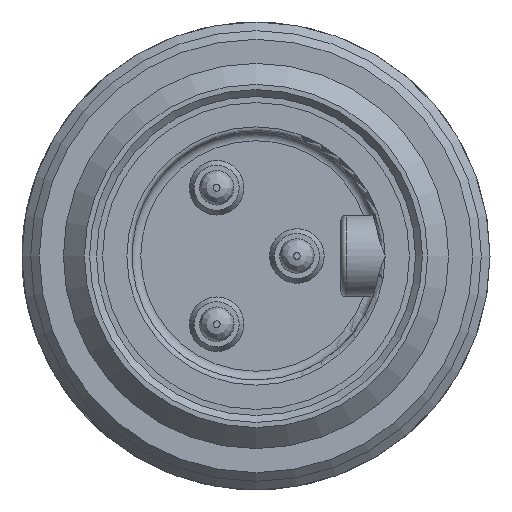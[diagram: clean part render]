
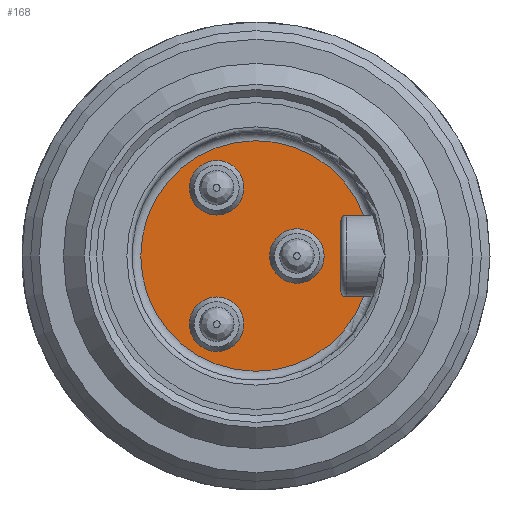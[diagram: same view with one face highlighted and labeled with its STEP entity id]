
A CAD part, front view. The second image highlights one B-rep face of the part: STEP entity #168.
In plain terms, the highlighted planar face has unit normal (0, -1, 0).
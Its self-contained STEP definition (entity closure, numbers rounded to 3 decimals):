
#168 = ADVANCED_FACE( '', ( #463, #464, #465, #466 ), #467, .F. );
#463 = FACE_OUTER_BOUND( '', #929, .T. );
#464 = FACE_BOUND( '', #930, .T. );
#465 = FACE_BOUND( '', #931, .T. );
#466 = FACE_BOUND( '', #932, .T. );
#467 = PLANE( '', #933 );
#929 = EDGE_LOOP( '', ( #1511, #1512, #1513, #1514, #1515, #1516 ) );
#930 = EDGE_LOOP( '', ( #1517 ) );
#931 = EDGE_LOOP( '', ( #1518 ) );
#932 = EDGE_LOOP( '', ( #1519 ) );
#933 = AXIS2_PLACEMENT_3D( '', #1520, #1521, #1522 );
#1511 = ORIENTED_EDGE( '', *, *, #2629, .T. );
#1512 = ORIENTED_EDGE( '', *, *, #2630, .F. );
#1513 = ORIENTED_EDGE( '', *, *, #2631, .T. );
#1514 = ORIENTED_EDGE( '', *, *, #2632, .F. );
#1515 = ORIENTED_EDGE( '', *, *, #2633, .T. );
#1516 = ORIENTED_EDGE( '', *, *, #2634, .F. );
#1517 = ORIENTED_EDGE( '', *, *, #2635, .F. );
#1518 = ORIENTED_EDGE( '', *, *, #2636, .F. );
#1519 = ORIENTED_EDGE( '', *, *, #2637, .F. );
#1520 = CARTESIAN_POINT( '', ( 30.425, 1064.655, 0. ) );
#1521 = DIRECTION( '', ( 0., 1., 0. ) );
#1522 = DIRECTION( '', ( 0., 0., -1. ) );
#2629 = EDGE_CURVE( '', #3045, #3046, #3047, .T. );
#2630 = EDGE_CURVE( '', #3048, #3046, #3049, .T. );
#2631 = EDGE_CURVE( '', #3048, #3050, #3051, .T. );
#2632 = EDGE_CURVE( '', #3052, #3050, #3053, .T. );
#2633 = EDGE_CURVE( '', #3052, #3054, #3055, .T. );
#2634 = EDGE_CURVE( '', #3045, #3054, #3056, .T. );
#2635 = EDGE_CURVE( '', #3057, #3057, #3058, .T. );
#2636 = EDGE_CURVE( '', #3059, #3059, #3060, .T. );
#2637 = EDGE_CURVE( '', #3061, #3061, #3062, .T. );
#3045 = VERTEX_POINT( '', #3638 );
#3046 = VERTEX_POINT( '', #3639 );
#3047 = LINE( '', #3640, #3641 );
#3048 = VERTEX_POINT( '', #3642 );
#3049 = CIRCLE( '', #3643, 0.3 );
#3050 = VERTEX_POINT( '', #3644 );
#3051 = LINE( '', #3645, #3646 );
#3052 = VERTEX_POINT( '', #3647 );
#3053 = CIRCLE( '', #3648, 0.3 );
#3054 = VERTEX_POINT( '', #3649 );
#3055 = LINE( '', #3650, #3651 );
#3056 = CIRCLE( '', #3652, 6.65 );
#3057 = VERTEX_POINT( '', #3653 );
#3058 = CIRCLE( '', #3654, 1.575 );
#3059 = VERTEX_POINT( '', #3655 );
#3060 = CIRCLE( '', #3656, 1.575 );
#3061 = VERTEX_POINT( '', #3657 );
#3062 = CIRCLE( '', #3658, 1.575 );
#3638 = CARTESIAN_POINT( '', ( 40.221, 1064.655, -2.35 ) );
#3639 = CARTESIAN_POINT( '', ( 39.2, 1064.655, -2.35 ) );
#3640 = CARTESIAN_POINT( '', ( 34., 1064.655, -2.35 ) );
#3641 = VECTOR( '', #5390, 1000. );
#3642 = CARTESIAN_POINT( '', ( 38.9, 1064.655, -2.05 ) );
#3643 = AXIS2_PLACEMENT_3D( '', #5391, #5392, #5393 );
#3644 = CARTESIAN_POINT( '', ( 38.9, 1064.655, 2.05 ) );
#3645 = CARTESIAN_POINT( '', ( 38.9, 1064.655, 98.927 ) );
#3646 = VECTOR( '', #5394, 1000. );
#3647 = CARTESIAN_POINT( '', ( 39.2, 1064.655, 2.35 ) );
#3648 = AXIS2_PLACEMENT_3D( '', #5395, #5396, #5397 );
#3649 = CARTESIAN_POINT( '', ( 40.221, 1064.655, 2.35 ) );
#3650 = CARTESIAN_POINT( '', ( 34., 1064.655, 2.35 ) );
#3651 = VECTOR( '', #5398, 1000. );
#3652 = AXIS2_PLACEMENT_3D( '', #5399, #5400, #5401 );
#3653 = CARTESIAN_POINT( '', ( 30.155, 1064.655, -3.935 ) );
#3654 = AXIS2_PLACEMENT_3D( '', #5402, #5403, #5404 );
#3655 = CARTESIAN_POINT( '', ( 30.155, 1064.655, 3.935 ) );
#3656 = AXIS2_PLACEMENT_3D( '', #5405, #5406, #5407 );
#3657 = CARTESIAN_POINT( '', ( 34.785, 1064.655, 0. ) );
#3658 = AXIS2_PLACEMENT_3D( '', #5408, #5409, #5410 );
#5390 = DIRECTION( '', ( -1., 0., 0. ) );
#5391 = CARTESIAN_POINT( '', ( 39.2, 1064.655, -2.05 ) );
#5392 = DIRECTION( '', ( 0., -1., 0. ) );
#5393 = DIRECTION( '', ( 0., 0., -1. ) );
#5394 = DIRECTION( '', ( 0., 0., 1. ) );
#5395 = CARTESIAN_POINT( '', ( 39.2, 1064.655, 2.05 ) );
#5396 = DIRECTION( '', ( 0., -1., 0. ) );
#5397 = DIRECTION( '', ( 0., 0., -1. ) );
#5398 = DIRECTION( '', ( 1., 0., 0. ) );
#5399 = CARTESIAN_POINT( '', ( 34., 1064.655, 0. ) );
#5400 = DIRECTION( '', ( 0., 1., 0. ) );
#5401 = DIRECTION( '', ( 0., 0., 1. ) );
#5402 = CARTESIAN_POINT( '', ( 31.73, 1064.655, -3.935 ) );
#5403 = DIRECTION( '', ( 0., -1., 0. ) );
#5404 = DIRECTION( '', ( -1., 0., 0. ) );
#5405 = CARTESIAN_POINT( '', ( 31.73, 1064.655, 3.935 ) );
#5406 = DIRECTION( '', ( 0., -1., 0. ) );
#5407 = DIRECTION( '', ( -1., 0., 0. ) );
#5408 = CARTESIAN_POINT( '', ( 36.36, 1064.655, 0. ) );
#5409 = DIRECTION( '', ( 0., -1., 0. ) );
#5410 = DIRECTION( '', ( -1., 0., 0. ) );
